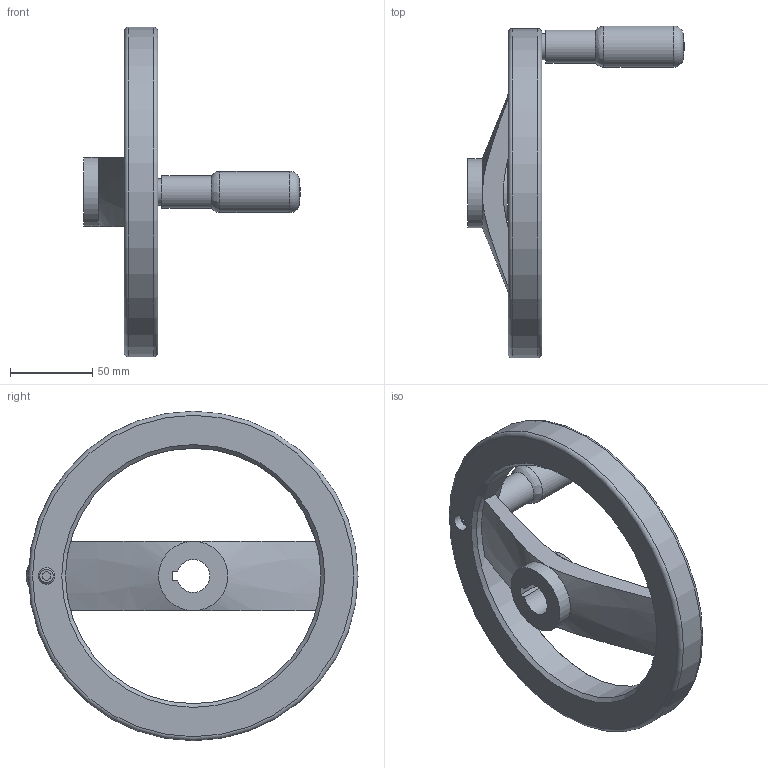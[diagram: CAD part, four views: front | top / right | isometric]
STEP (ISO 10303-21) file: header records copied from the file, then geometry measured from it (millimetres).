
FILE_DESCRIPTION( ( 'STEP AP203' ), '1' );
FILE_NAME( 'C:/Temp/Ganter_Step_05_03_2020/data/1_3/gn_324/gn_324_k/gn_324_k_d/Handwheel, matt black GN 324-200-K20-R.stp', '2020-03-05T10:33:04', ( 'License CC BY-ND 4.0' ), ( 'CADENAS' ), ' ', 'PARTsolutions', ' ' );
FILE_SCHEMA( ( 'CONFIG_CONTROL_DESIGN' ) );
Length unit declared in the file: millimetre
Products named in the file (1): _Handwheel, matt black GN 324-200-K20-R
Bounding box: 131.5 x 201.5 x 200 mm (x, y, z)
Volume: 368989.1 mm3; surface area: 71117.9 mm2
Topology: 1 solids, 2 shells, 43 faces, 97 edges, 60 vertices
Faces by surface type: plane 19, cylinder 11, cone 8, torus 3, sphere 1, bspline 1
Full cylindrical faces by diameter (mm): 8.14 x1, 10 x2, 16 x1, 20 x1, 25 x1, 42 x2, 155 x1, 200 x1
Entity records: 1283 total; most frequent: CARTESIAN_POINT 354, DIRECTION 186, ORIENTED_EDGE 148, AXIS2_PLACEMENT_3D 77, EDGE_CURVE 74, EDGE_LOOP 72, FACE_OUTER_BOUND 57, VERTEX_POINT 57
